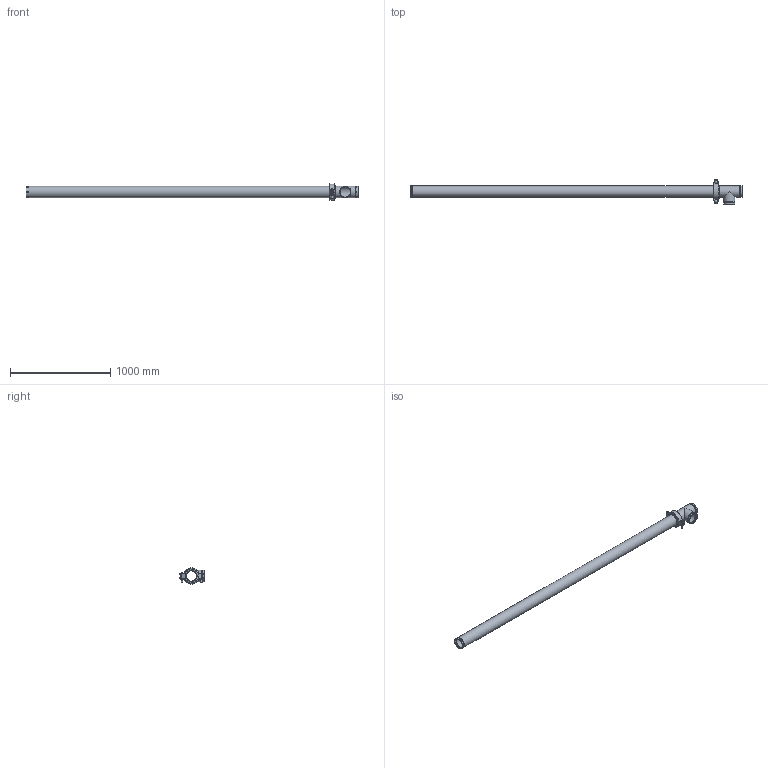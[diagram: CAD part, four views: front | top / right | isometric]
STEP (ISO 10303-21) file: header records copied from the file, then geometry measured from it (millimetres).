
FILE_DESCRIPTION(/* description */ ('VIC LONG RUN FITTING No R25 (OGS)','CAx-IF Rec.Pracs.---Representation and Presentation of Product Manufacturing Information (PMI)---4.0---2014-10-13'),/* implementation_level */ '2;1');
FILE_NAME(/* name */ 'C:\Users\Vjadhav\AppData\Roaming\Autodesk\ApplicationPlugins\Back Up\Victaulic_IPS_Long Run Fittings_No R25 (OGS)\Victaulic_IPS_Long Run Fittings_No R25 (OGS)_4 (100).stp',/* time_stamp */ '2020-10-14T10:38:54+05:00',/* author */ ('Vjadhav'),/* organization */ ('Victaulic'),/* preprocessor_version */ 'ST-DEVELOPER v17.2',/* originating_system */ 'Autodesk Inventor 2019',/* authorisation */ '');
FILE_SCHEMA (('AP242_MANAGED_MODEL_BASED_3D_ENGINEERING_MIM_LF { 1 0 10303 442 1 1 4 }'));
Length unit declared in the file: inch
Products named in the file (4): R25-04.0; 020-04.0; 177N-04.0; Pipe_R13-04.0
Assembly tree (3 placements, depth 2):
  R25-04.0
    020-04.0
    177N-04.0
    Pipe_R13-04.0
Bounding box: 3311.65 x 245.56 x 161.45 mm (x, y, z)
Volume: 7580067 mm3; surface area: 2399409 mm2
Topology: 3 solids, 3 shells, 122 faces, 323 edges, 222 vertices
Faces by surface type: plane 71, cylinder 41, cone 4, torus 4, sphere 2
Full cylindrical faces by diameter (mm): 15.875 x2, 23.495 x2, 101.6 x1, 102.26 x3, 110.084 x5, 114.3 x10
Entity records: 4247 total; most frequent: CARTESIAN_POINT 750, DIRECTION 711, ORIENTED_EDGE 654, EDGE_CURVE 327, AXIS2_PLACEMENT_3D 271, VERTEX_POINT 222, LINE 169, VECTOR 169
